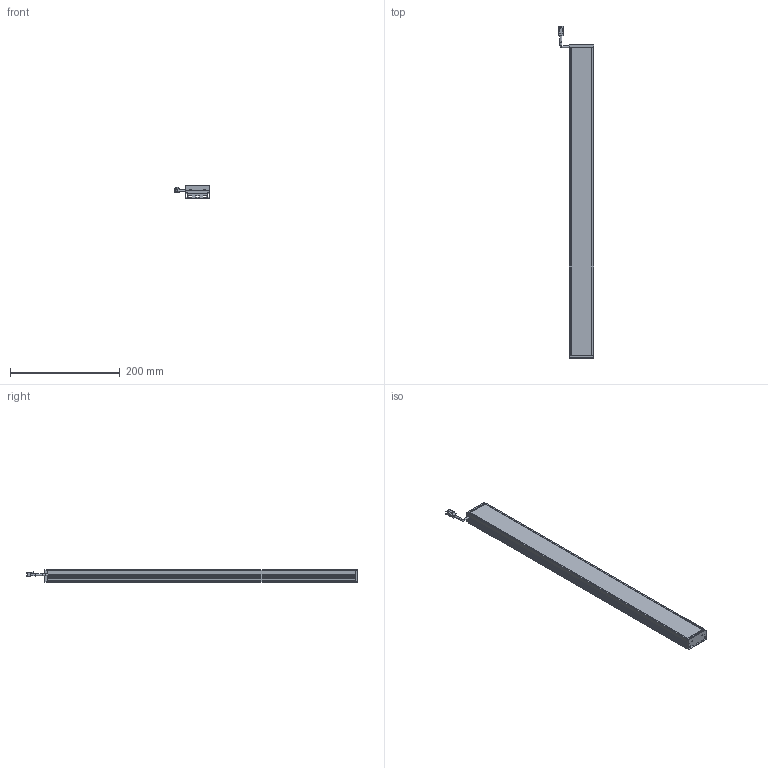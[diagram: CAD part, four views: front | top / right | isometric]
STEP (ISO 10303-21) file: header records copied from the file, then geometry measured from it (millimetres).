
FILE_DESCRIPTION(/* description */ (''),/* implementation_level */ '2;1');
FILE_NAME(/* name */ '',/* time_stamp */ '2024-02-21T14:25:18+08:00',/* author */ (''),/* organization */ (''),/* preprocessor_version */ 'ST-DEVELOPER v20',/* originating_system */ 'Autodesk Translation Framework v12.20.1.177',/* authorisation */ '');
FILE_SCHEMA (('AUTOMOTIVE_DESIGN { 1 0 10303 214 3 1 1 }'));
Length unit declared in the file: millimetre
Products named in the file (6): L45; 3拼母头 v2; 主体; 漫射板; 挡头 (1); 挡头
Assembly tree (5 placements, depth 2):
  L45
    3拼母头 v2
    主体
    漫射板
    挡头 (1)
    挡头
Bounding box: 65 x 604 x 22 mm (x, y, z)
Volume: 261223.3 mm3; surface area: 208564.5 mm2
Topology: 6 solids, 6 shells, 414 faces, 1174 edges, 780 vertices
Faces by surface type: plane 306, cylinder 103, cone 4, torus 1
Full cylindrical faces by diameter (mm): 2.529 x4, 3.8 x3
Entity records: 13562 total; most frequent: CARTESIAN_POINT 2384, ORIENTED_EDGE 2340, DIRECTION 2240, EDGE_CURVE 1170, LINE 948, VECTOR 948, VERTEX_POINT 780, AXIS2_PLACEMENT_3D 646
